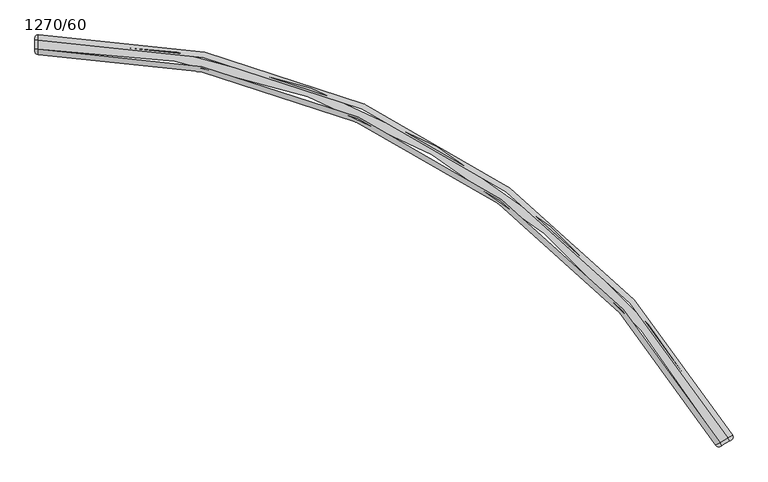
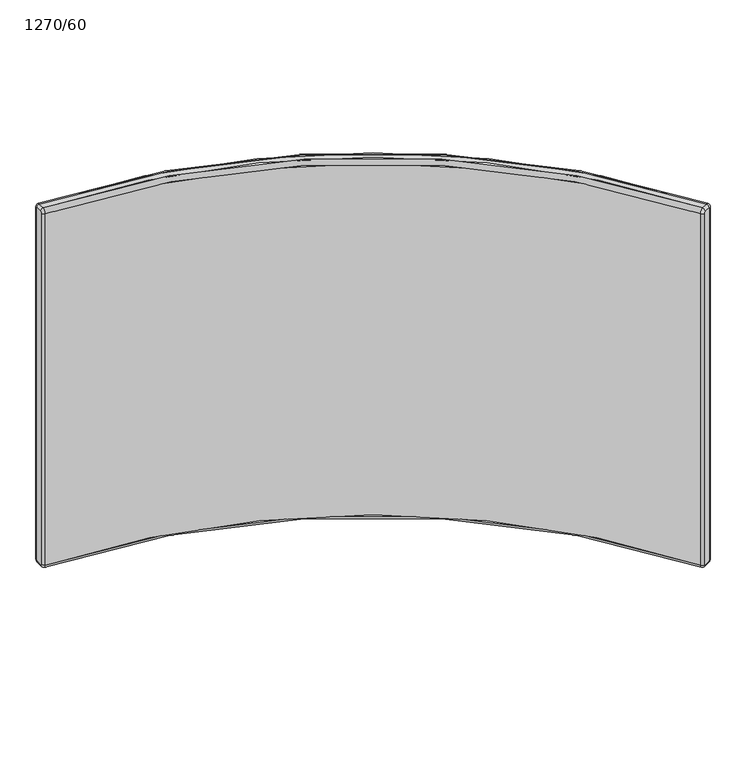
"""IFC4 building model written with IfcOpenShell, lengths in millimetres: furniture geometry, Laguna-Panel-Curve_Inside-ERG : 1270/60."""

import ifcopenshell
import ifcopenshell.guid

model = None  # the IFC model being written
_history = None  # IfcOwnerHistory: only IFC2X3 demands one
_inside = {}  # id of a spatial element -> (the spatial element, [elements in it])
_under = {}  # id of a project, library or spatial element -> (it, [spatial elements below it])
_declared = {}  # id of a project -> (the project, [libraries it declares])
_typed = {}  # id of a type object -> (the type object, [elements of that type])
_made_of = {}  # id of a material, layer set ... -> (it, [elements and type objects made of it])


def new_model(schema):
    """Start an empty IFC model of exactly this schema.

    Asked for "IFC4X3", IfcOpenShell would pick the latest addendum, in which some entities
    have other attributes; the version numbers below select the first issue.
    IFC2X3 requires an IfcOwnerHistory on every rooted entity: one is made here for all.
    """
    global model, _history
    if schema == "IFC4X3":
        model = ifcopenshell.file(schema_version=(4, 3, 0, 0))
    else:
        model = ifcopenshell.file(schema=schema)
    _inside.clear()
    _under.clear()
    _declared.clear()
    _typed.clear()
    _made_of.clear()
    _history = None
    if model.schema == "IFC2X3":
        org = make("IfcOrganization", Name="unknown")
        user = make(
            "IfcPersonAndOrganization",
            ThePerson=make("IfcPerson", FamilyName="unknown"),
            TheOrganization=org,
        )
        app = make(
            "IfcApplication",
            ApplicationDeveloper=org,
            Version="unknown",
            ApplicationFullName="unknown",
            ApplicationIdentifier="unknown",
        )
        _history = make(
            "IfcOwnerHistory",
            OwningUser=user,
            OwningApplication=app,
            ChangeAction="ADDED",
            CreationDate=0,
        )
    return model


def make(cls, **values):
    """One entity of the class cls with the attributes given. An attribute that is None is left unset."""
    return model.create_entity(
        cls, **{name: value for name, value in values.items() if value is not None}
    )


def rooted(cls, **values):
    """An entity with a GlobalId (a new one), such as an element, a storey or a relation."""
    return make(cls, GlobalId=ifcopenshell.guid.new(), OwnerHistory=_history, **values)


def si_unit(unit_type, name, prefix=None):
    """IfcSIUnit, for example si_unit("LENGTHUNIT", "METRE", prefix="MILLI")."""
    return make("IfcSIUnit", UnitType=unit_type, Prefix=prefix, Name=name)


def assignment(units):
    """IfcUnitAssignment: the units of a project."""
    return None if units is None else make("IfcUnitAssignment", Units=units)


def point(xyz):
    """IfcCartesianPoint."""
    return None if xyz is None else make("IfcCartesianPoint", Coordinates=xyz)


def direction(xyz):
    """IfcDirection."""
    return None if xyz is None else make("IfcDirection", DirectionRatios=xyz)


def frame(location, z_axis=None, x_axis=None):
    """IfcAxis2Placement3D, a coordinate frame: its origin and axes. An axis left out is left unset."""
    return make(
        "IfcAxis2Placement3D",
        Location=point(location),
        Axis=direction(z_axis),
        RefDirection=direction(x_axis),
    )


def origin():
    """The frame at (0, 0, 0) with its axes left unset."""
    return frame((0.0, 0.0, 0.0))


def place(relative_to, where):
    """IfcLocalPlacement: puts the frame where relative to a parent placement (None: the world)."""
    return make(
        "IfcLocalPlacement", PlacementRelTo=relative_to, RelativePlacement=where
    )


def context(
    kind, dimensions, precision=None, world=None, true_north=None, identifier=None
):
    """IfcGeometricRepresentationContext, for example the 3D "Model" context."""
    return make(
        "IfcGeometricRepresentationContext",
        ContextIdentifier=identifier,
        ContextType=kind,
        CoordinateSpaceDimension=dimensions,
        Precision=precision,
        WorldCoordinateSystem=world,
        TrueNorth=true_north,
    )


def project(units=None, contexts=None):
    """IfcProject with its units and contexts."""
    return rooted(
        "IfcProject",
        Name="project",
        RepresentationContexts=contexts,
        UnitsInContext=assignment(units),
    )


def spatial(cls, under=None, at=None, **own):
    """A site, building, storey or space (cls), placed at a placement, below another one or the project."""
    s = rooted(cls, ObjectPlacement=at, **own)
    if under is not None:
        _under.setdefault(under.id(), (under, []))[1].append(s)
    return s


def polyline(points):
    """IfcPolyline through the points."""
    return make("IfcPolyline", Points=[point(p) for p in points])


def circle_curve(where, radius):
    """IfcCircle in the frame where."""
    return make("IfcCircle", Position=where, Radius=radius)


def ellipse_curve(where, semi_axis1, semi_axis2):
    """IfcEllipse in the frame where."""
    return make(
        "IfcEllipse", Position=where, SemiAxis1=semi_axis1, SemiAxis2=semi_axis2
    )


def trimmed(basis, trim1, trim2, sense, master):
    """IfcTrimmedCurve: the piece of a basis curve between two trims."""
    return make(
        "IfcTrimmedCurve",
        BasisCurve=basis,
        Trim1=trim1,
        Trim2=trim2,
        SenseAgreement=sense,
        MasterRepresentation=master,
    )


def shape(context_of_items, identifier, shape_type, items):
    """IfcShapeRepresentation: the items that make up one representation, for example the "Body"."""
    return make(
        "IfcShapeRepresentation",
        ContextOfItems=context_of_items,
        RepresentationIdentifier=identifier,
        RepresentationType=shape_type,
        Items=items,
    )


def source(mapping_origin, context_of_items, identifier, shape_type, items):
    """IfcRepresentationMap: a shape defined once, which mapped items show again and again."""
    return make(
        "IfcRepresentationMap",
        MappingOrigin=mapping_origin,
        MappedRepresentation=shape(context_of_items, identifier, shape_type, items),
    )


def transform(
    local_origin,
    x_axis=None,
    y_axis=None,
    z_axis=None,
    scale=None,
    scale2=None,
    scale3=None,
    uniform=True,
):
    """IfcCartesianTransformationOperator3D, or its non-uniform kind. x_axis, y_axis, z_axis: its Axis1, 2, 3."""
    if uniform:
        return make(
            "IfcCartesianTransformationOperator3D",
            Axis1=direction(x_axis),
            Axis2=direction(y_axis),
            LocalOrigin=point(local_origin),
            Scale=scale,
            Axis3=direction(z_axis),
        )
    return make(
        "IfcCartesianTransformationOperator3DnonUniform",
        Axis1=direction(x_axis),
        Axis2=direction(y_axis),
        LocalOrigin=point(local_origin),
        Scale=scale,
        Axis3=direction(z_axis),
        Scale2=scale2,
        Scale3=scale3,
    )


def mapped(mapping_source, mapping_target):
    """IfcMappedItem: shows the shape of a source again, moved by a transform."""
    return make(
        "IfcMappedItem", MappingSource=mapping_source, MappingTarget=mapping_target
    )


def made_of(thing, what):
    """Note that an element or type object is made of a material, layer set ...; save() writes the relation."""
    if what is not None:
        _made_of.setdefault(what.id(), (what, []))[1].append(thing)
    return thing


def element(
    cls,
    number,
    at=None,
    inside=None,
    cuts=None,
    type_object=None,
    material=None,
    context=None,
    identifier="Body",
    shape_type=None,
    held_by="IfcProductDefinitionShape",
    body=None,
    shapes=None,
    **own,
):
    """One element of the class cls, such as IfcWall. Its Tag is "e" and its number.

    at: its placement. inside: the storey or other place that contains it. cuts: it is an
    opening in that element (IfcRelVoidsElement). A single representation is given by context,
    identifier, shape_type and body (its items); several are given by shapes. held_by: the class
    of the entity that holds the representations. save() writes the other relations.
    """
    e = rooted(cls, Tag="e%d" % number, ObjectPlacement=at, **own)
    if body is not None:
        shapes = [shape(context, identifier, shape_type, body)]
    if shapes is not None:
        e.Representation = make(held_by, Representations=shapes)
    if inside is not None:
        _inside.setdefault(inside.id(), (inside, []))[1].append(e)
    if cuts is not None:
        rooted(
            "IfcRelVoidsElement", RelatingBuildingElement=cuts, RelatedOpeningElement=e
        )
    if type_object is not None:
        _typed.setdefault(type_object.id(), (type_object, []))[1].append(e)
    return made_of(e, material)


def aggregate(whole, parts):
    """IfcRelAggregates: a whole, such as a stair, and the parts it consists of."""
    return rooted("IfcRelAggregates", RelatingObject=whole, RelatedObjects=parts)


def save(model, path):
    """Write the relations noted so far, then the file.

    IfcRelAggregates (storeys below a building ...), IfcRelContainedInSpatialStructure (elements
    in a storey), IfcRelDefinesByType, IfcRelAssociatesMaterial and IfcRelDeclares: one each for
    every whole, place, type object, material and project.
    """
    for whole, parts in _under.values():
        aggregate(whole, parts)
    for where, things in _inside.values():
        rooted(
            "IfcRelContainedInSpatialStructure",
            RelatedElements=things,
            RelatingStructure=where,
        )
    for kind, things in _typed.values():
        rooted("IfcRelDefinesByType", RelatedObjects=things, RelatingType=kind)
    for what, things in _made_of.values():
        rooted("IfcRelAssociatesMaterial", RelatedObjects=things, RelatingMaterial=what)
    for by, libraries in _declared.values():
        rooted("IfcRelDeclares", RelatingContext=by, RelatedDefinitions=libraries)
    model.write(path)


def plane_surface(at):
    """IfcPlane: the flat surface through the origin of the frame at, square to its z axis."""
    return make("IfcPlane", Position=at)


def cylinder_surface(at, radius):
    """IfcCylindricalSurface: all points at the distance radius from the z axis of the frame at."""
    return make("IfcCylindricalSurface", Position=at, Radius=radius)


def revolved_surface(curve, axis_point, axis_direction):
    """IfcSurfaceOfRevolution: the curve turned about the line through axis_point along axis_direction."""
    return make(
        "IfcSurfaceOfRevolution",
        SweptCurve=make("IfcArbitraryOpenProfileDef", ProfileType="CURVE", Curve=curve),
        AxisPosition=make("IfcAxis1Placement", Location=point(axis_point), Axis=direction(axis_direction)),
    )


def advanced_brep(points, edges, surfaces, faces):
    """IfcAdvancedBrep: a solid bounded by faces that lie on surfaces and meet in shared edges.

    An edge is (start, end): straight between two places in points (the first is 0);
    or (start, end, curve); or (start, end, curve, False) where it runs against its curve.
    A face is (place in surfaces, loops), or (place, loops, False) where it looks against
    its surface's normal. A loop lists edges by number (the first is 1), with a minus sign
    where the edge is run from its end to its start. The first loop is the outer one.
    """
    corners = [point(p) for p in points]
    vertices = [make("IfcVertexPoint", VertexGeometry=c) for c in corners]
    made = []
    for start, end, *more in edges:
        made.append(
            make(
                "IfcEdgeCurve",
                EdgeStart=vertices[start],
                EdgeEnd=vertices[end],
                EdgeGeometry=more[0] if more else make("IfcPolyline", Points=[corners[start], corners[end]]),
                SameSense=more[1] if len(more) > 1 else True,
            )
        )
    hull = []
    for where, loops, *sense in faces:
        bounds = []
        for j, loop in enumerate(loops):
            ring = [make("IfcOrientedEdge", EdgeElement=made[abs(k) - 1], Orientation=k > 0) for k in loop]
            bounds.append(
                make(
                    "IfcFaceOuterBound" if j == 0 else "IfcFaceBound",
                    Bound=make("IfcEdgeLoop", EdgeList=ring),
                    Orientation=True,
                )
            )
        hull.append(make("IfcAdvancedFace", Bounds=bounds, FaceSurface=surfaces[where], SameSense=sense[0] if sense else True))
    return make("IfcAdvancedBrep", Outer=make("IfcClosedShell", CfsFaces=hull))


def furniture_1270_60_1ddb8be8(model_context):
    return source(origin(), model_context, "Body", "AdvancedBrep", [
        advanced_brep(
        [(-3478.5381962, 710.5208734, 1209.04), (-3476.2139349, 719.1951347, 1209.04), (-3485.012753, 714.1151347, 1219.2), (-3481.837753, 708.6158734, 1212.85), (-3500.433635, 705.2118843, 1219.2), (-3497.258635, 699.712623, 1212.85), (-3509.2324531, 700.1318843, 1209.04), (-3500.5581918, 697.807623, 1209.04), (-3509.2324531, 700.1318843, 213.36), (-3500.5581918, 697.807623, 213.36), (-3500.433635, 705.2118843, 203.2), (-3497.258635, 699.712623, 209.55), (-3485.012753, 714.1151347, 203.2), (-3481.837753, 708.6158734, 209.55), (-3476.2139349, 719.1951347, 213.36), (-3478.5381962, 710.5208734, 213.36), (-4826.5553779, 1498.8151303, 1209.04), (-4826.5553779, 1488.6551303, 1219.2), (-4826.5553779, 1498.8151303, 213.36), (-4826.5553779, 1488.6551303, 203.2), (-4826.5553779, 1470.8486296, 203.2), (-4826.5553779, 1460.6886296, 213.36), (-4826.5553779, 1460.6886296, 1209.04), (-4826.5553779, 1470.8486296, 1219.2), (-4832.9053779, 1467.0386296, 1209.04), (-4832.9053779, 1470.8486296, 1212.85), (-4832.9053779, 1488.6551303, 1212.85), (-4832.9053779, 1492.4651303, 1209.04), (-4832.9053779, 1492.4651303, 213.36), (-4832.9053779, 1488.6551303, 209.55), (-4832.9053779, 1470.8486296, 209.55), (-4832.9053779, 1467.0386296, 213.36)],
        [
            (0, 1, circle_curve(frame((-3481.7131962, 716.0201347, 1209.04), z_axis=(0.0, 0.0, 1.0000000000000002), x_axis=(-0.866025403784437, -0.500000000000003, 0.0)), 6.35)),
            (1, 2, circle_curve(frame((-3485.012753, 714.1151347, 1209.04), z_axis=(0.5000000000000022, -0.8660254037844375, 0.0), x_axis=(0.8660254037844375, 0.5000000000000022, 0.0)), 10.16)),
            (2, 3, circle_curve(frame((-3485.012753, 714.1151347, 1212.85), z_axis=(0.8660254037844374, 0.5000000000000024, 0.0), x_axis=(0.0, 0.0, -1.0000000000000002)), 6.35)),
            (3, 0, circle_curve(frame((-3481.837753, 708.6158734, 1209.04), z_axis=(-0.5000000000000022, 0.8660254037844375, 0.0), x_axis=(0.8660254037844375, 0.5000000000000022, 0.0)), 3.81)),
            (2, 4),
            (4, 5, circle_curve(frame((-3500.433635, 705.2118843, 1212.85), z_axis=(0.8660254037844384, 0.5000000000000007, 0.0), x_axis=(0.0, 0.0, -1.0)), 6.35)),
            (5, 3),
            (4, 6, circle_curve(frame((-3500.433635, 705.2118843, 1209.04), z_axis=(0.5000000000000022, -0.8660254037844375, 0.0), x_axis=(0.0, 0.0, 1.0)), 10.16)),
            (6, 7, circle_curve(frame((-3503.7331918, 703.3068843, 1209.04), z_axis=(0.0, 0.0, 1.0), x_axis=(0.8660254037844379, 0.5000000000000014, 0.0)), 6.35)),
            (7, 5, circle_curve(frame((-3497.258635, 699.712623, 1209.04), z_axis=(-0.5000000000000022, 0.8660254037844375, 0.0), x_axis=(0.0, 0.0, 1.0)), 3.81)),
            (6, 8),
            (8, 9, circle_curve(frame((-3503.7331918, 703.3068843, 213.36), z_axis=(0.0, 0.0, 1.0), x_axis=(0.8660254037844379, 0.5000000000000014, 0.0)), 6.35)),
            (9, 7),
            (8, 10, circle_curve(frame((-3500.433635, 705.2118843, 213.36), z_axis=(0.5000000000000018, -0.8660254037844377, 0.0), x_axis=(-0.8660254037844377, -0.5000000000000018, 0.0)), 10.16)),
            (10, 11, circle_curve(frame((-3500.433635, 705.2118843, 209.55), z_axis=(-0.866025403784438, -0.5000000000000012, 0.0), x_axis=(0.0, 0.0, 1.0)), 6.35)),
            (11, 9, circle_curve(frame((-3497.258635, 699.712623, 213.36), z_axis=(-0.5000000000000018, 0.8660254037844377, 0.0), x_axis=(-0.8660254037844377, -0.5000000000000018, 0.0)), 3.81)),
            (10, 12),
            (12, 13, circle_curve(frame((-3485.012753, 714.1151347, 209.55), z_axis=(-0.866025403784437, -0.500000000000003, 0.0), x_axis=(0.0, 0.0, 1.0)), 6.35)),
            (13, 11),
            (12, 14, circle_curve(frame((-3485.012753, 714.1151347, 213.36), z_axis=(0.5000000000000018, -0.8660254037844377, 0.0), x_axis=(0.0, 0.0, -1.0)), 10.16)),
            (14, 15, circle_curve(frame((-3481.7131962, 716.0201347, 213.36), z_axis=(0.0, 0.0, -1.0), x_axis=(-0.8660254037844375, -0.5000000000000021, 0.0)), 6.35)),
            (15, 13, circle_curve(frame((-3481.837753, 708.6158734, 213.36), z_axis=(-0.5000000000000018, 0.8660254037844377, 0.0), x_axis=(0.0, 0.0, -1.0)), 3.81)),
            (0, 15),
            (14, 1),
            (1, 16, circle_curve(frame((-4826.5553779, -60.4248609, 1209.04), z_axis=(0.0, 0.0, 1.0), x_axis=(0.0, 1.0, 0.0)), 1559.2399912)),
            (16, 17, circle_curve(frame((-4826.5553779, 1488.6551303, 1209.04), z_axis=(1.0, 0.0, 0.0), x_axis=(0.0, 1.0, 0.0)), 10.16)),
            (17, 2, circle_curve(frame((-4826.5553779, -60.4248609, 1219.2), z_axis=(0.0, 0.0, -1.0), x_axis=(0.0, 1.0, 0.0)), 1549.0799912)),
            (14, 18, circle_curve(frame((-4826.5553779, -60.4248609, 213.36), z_axis=(0.0, 0.0, 1.0), x_axis=(0.0, 1.0, 0.0)), 1559.2399912)),
            (18, 16),
            (12, 19, circle_curve(frame((-4826.5553779, -60.4248609, 203.2), z_axis=(0.0, 0.0, 1.0), x_axis=(0.0, 1.0, 0.0)), 1549.0799912)),
            (19, 18, circle_curve(frame((-4826.5553779, 1488.6551303, 213.36), z_axis=(1.0, 0.0, 0.0), x_axis=(0.0, 1.0, 0.0)), 10.16)),
            (10, 20, circle_curve(frame((-4826.5553779, -60.4248609, 203.2), z_axis=(0.0, 0.0, 1.0), x_axis=(0.0, 1.0, 0.0)), 1531.2734905)),
            (20, 19),
            (8, 21, circle_curve(frame((-4826.5553779, -60.4248609, 213.36), z_axis=(0.0, 0.0, 1.0), x_axis=(0.0, 1.0, 0.0)), 1521.1134905)),
            (21, 20, circle_curve(frame((-4826.5553779, 1470.8486296, 213.36), z_axis=(1.0, 0.0, 0.0), x_axis=(0.0, 1.0, 0.0)), 10.16)),
            (6, 22, circle_curve(frame((-4826.5553779, -60.4248609, 1209.04), z_axis=(0.0, 0.0, 1.0), x_axis=(0.0, 1.0, 0.0)), 1521.1134905)),
            (22, 21),
            (4, 23, circle_curve(frame((-4826.5553779, -60.4248609, 1219.2), z_axis=(0.0, 0.0, 1.0), x_axis=(0.0, 1.0, 0.0)), 1531.2734905)),
            (23, 22, circle_curve(frame((-4826.5553779, 1470.8486296, 1209.04), z_axis=(1.0, 0.0, 0.0), x_axis=(0.0, 1.0, 0.0)), 10.16)),
            (17, 23),
            (24, 22, circle_curve(frame((-4826.5553779, 1467.0386296, 1209.04), z_axis=(0.0, 0.0, 1.0), x_axis=(0.0, 1.0, 0.0)), 6.35)),
            (23, 25, circle_curve(frame((-4826.5553779, 1470.8486296, 1212.85), z_axis=(0.0, -1.0, 0.0), x_axis=(0.0, 0.0, -1.0)), 6.35)),
            (25, 24, circle_curve(frame((-4832.9053779, 1470.8486296, 1209.04), z_axis=(1.0, 0.0, 0.0), x_axis=(0.0, -1.0, 0.0)), 3.81)),
            (17, 26, circle_curve(frame((-4826.5553779, 1488.6551303, 1212.85), z_axis=(0.0, -1.0, 0.0), x_axis=(0.0, 0.0, -1.0)), 6.35)),
            (26, 25),
            (16, 27, circle_curve(frame((-4826.5553779, 1492.4651303, 1209.04), z_axis=(0.0, 0.0, 1.0), x_axis=(0.0, -1.0, 0.0)), 6.35)),
            (27, 26, circle_curve(frame((-4832.9053779, 1488.6551303, 1209.04), z_axis=(1.0, 0.0, 0.0), x_axis=(0.0, 0.0, 1.0)), 3.81)),
            (18, 28, circle_curve(frame((-4826.5553779, 1492.4651303, 213.36), z_axis=(0.0, 0.0, 1.0), x_axis=(0.0, -1.0, 0.0)), 6.35)),
            (28, 27),
            (19, 29, circle_curve(frame((-4826.5553779, 1488.6551303, 209.55), z_axis=(0.0, 1.0, 0.0), x_axis=(0.0, 0.0, 1.0)), 6.35)),
            (29, 28, circle_curve(frame((-4832.9053779, 1488.6551303, 213.36), z_axis=(1.0, 0.0, 0.0), x_axis=(0.0, 1.0, 0.0)), 3.81)),
            (20, 30, circle_curve(frame((-4826.5553779, 1470.8486296, 209.55), z_axis=(0.0, 1.0, 0.0), x_axis=(0.0, 0.0, 1.0)), 6.35)),
            (30, 29),
            (21, 31, circle_curve(frame((-4826.5553779, 1467.0386296, 213.36), z_axis=(0.0, 0.0, -1.0), x_axis=(0.0, 1.0, 0.0)), 6.35)),
            (31, 30, circle_curve(frame((-4832.9053779, 1470.8486296, 213.36), z_axis=(1.0, 0.0, 0.0), x_axis=(0.0, 0.0, -1.0)), 3.81)),
            (24, 31),
        ],
        [
            revolved_surface(trimmed(ellipse_curve(frame((-3481.7131962, 716.0201347, 1209.04), z_axis=(0.0, 0.0, -1.0000000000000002), x_axis=(-0.866025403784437, -0.500000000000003, 0.0)), 6.35, 6.35), [point((-3476.2139349, 719.1951347, 1209.04))], [point((-3478.5381962, 710.5208734, 1209.04))], True, "CARTESIAN"), (-3485.012753, 714.1151347, 1209.04), (0.5000000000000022, -0.8660254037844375, 0.0)),
            cylinder_surface(frame((-3485.012753, 714.1151347, 1212.85), z_axis=(0.8660254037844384, 0.5000000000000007, 0.0), x_axis=(0.0, 0.0, -1.0)), 6.35),
            revolved_surface(trimmed(ellipse_curve(frame((-3500.433635, 705.2118843, 1212.85), z_axis=(0.8660254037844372, 0.5000000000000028, 0.0), x_axis=(0.0, 0.0, -1.0)), 6.35, 6.35), [point((-3500.433635, 705.2118843, 1219.2))], [point((-3497.258635, 699.712623, 1212.85))], True, "CARTESIAN"), (-3500.433635, 705.2118843, 1209.04), (0.5000000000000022, -0.8660254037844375, 0.0)),
            cylinder_surface(frame((-3503.7331918, 703.3068843, 1209.04), z_axis=(0.0, 0.0, 1.0), x_axis=(0.8660254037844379, 0.5000000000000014, 0.0)), 6.35),
            revolved_surface(trimmed(ellipse_curve(frame((-3503.7331918, 703.3068843, 213.36), z_axis=(0.0, 0.0, 1.0), x_axis=(0.8660254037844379, 0.5000000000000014, 0.0)), 6.35, 6.35), [point((-3509.2324531, 700.1318843, 213.36))], [point((-3500.5581918, 697.807623, 213.36))], True, "CARTESIAN"), (-3500.433635, 705.2118843, 213.36), (0.5000000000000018, -0.8660254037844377, 0.0)),
            cylinder_surface(frame((-3500.433635, 705.2118843, 209.55), z_axis=(-0.866025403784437, -0.500000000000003, 0.0), x_axis=(0.0, 0.0, 1.0)), 6.35),
            revolved_surface(trimmed(ellipse_curve(frame((-3485.012753, 714.1151347, 209.55), z_axis=(-0.866025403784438, -0.5000000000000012, 0.0), x_axis=(0.0, 0.0, 1.0)), 6.35, 6.35), [point((-3485.012753, 714.1151347, 203.2))], [point((-3481.837753, 708.6158734, 209.55))], True, "CARTESIAN"), (-3485.012753, 714.1151347, 213.36), (0.5000000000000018, -0.8660254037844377, 0.0)),
            cylinder_surface(frame((-3481.7131962, 716.0201347, 213.36), z_axis=(0.0, 0.0, -1.0), x_axis=(-0.8660254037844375, -0.5000000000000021, 0.0)), 6.35),
            plane_surface(frame((-3500.5581918, 697.807623, 213.36), z_axis=(0.5000000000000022, -0.8660254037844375, 0.0), x_axis=(0.0, 0.0, -1.0))),
            revolved_surface(trimmed(ellipse_curve(frame((-4826.5553779, 1488.6551303, 1209.04), z_axis=(-1.0, 0.0, 0.0), x_axis=(0.0, 1.0, 0.0)), 10.16, 10.16), [point((-4826.5553779, 1488.6551303, 1219.2))], [point((-4826.5553779, 1498.8151303, 1209.04))], True, "CARTESIAN"), (-4826.5553779, -60.4248609, 0.0), (0.0, 0.0, -1.0)),
            cylinder_surface(frame((-4826.5553779, -60.4248609, 0.0), z_axis=(0.0, 0.0, -1.0), x_axis=(0.0, 1.0, 0.0)), 1559.2399912),
            revolved_surface(trimmed(ellipse_curve(frame((-4826.5553779, 1488.6551303, 213.36), z_axis=(-1.0, 0.0, 0.0), x_axis=(0.0, 1.0, 0.0)), 10.16, 10.16), [point((-4826.5553779, 1498.8151303, 213.36))], [point((-4826.5553779, 1488.6551303, 203.2))], True, "CARTESIAN"), (-4826.5553779, -60.4248609, 0.0), (0.0, 0.0, -1.0)),
            plane_surface(frame((-4826.5553779, -60.4248609, 203.2), z_axis=(0.0, 0.0, -1.0), x_axis=(0.0, 1.0, 0.0))),
            revolved_surface(trimmed(ellipse_curve(frame((-4826.5553779, 1470.8486296, 213.36), z_axis=(-1.0, 0.0, 0.0), x_axis=(0.0, 1.0, 0.0)), 10.16, 10.16), [point((-4826.5553779, 1470.8486296, 203.2))], [point((-4826.5553779, 1460.6886296, 213.36))], True, "CARTESIAN"), (-4826.5553779, -60.4248609, 0.0), (0.0, 0.0, -1.0)),
            revolved_surface(polyline([(-4826.5553779, 1460.6886295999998, 213.36), (-4826.5553779, 1460.6886295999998, 1209.04)]), (-4826.5553779, -60.4248609, 0.0), (0.0, 0.0, -1.0)),
            revolved_surface(trimmed(ellipse_curve(frame((-4826.5553779, 1470.8486296, 1209.04), z_axis=(-1.0, 0.0, 0.0), x_axis=(0.0, 1.0, 0.0)), 10.16, 10.16), [point((-4826.5553779, 1460.6886296, 1209.04))], [point((-4826.5553779, 1470.8486296, 1219.2))], True, "CARTESIAN"), (-4826.5553779, -60.4248609, 0.0), (0.0, 0.0, -1.0)),
            plane_surface(frame((-4826.5553779, -60.4248609, 1219.2), z_axis=(0.0, 0.0, 1.0), x_axis=(0.0, 1.0, 0.0))),
            revolved_surface(trimmed(ellipse_curve(frame((-4826.5553779, 1467.0386296, 1209.04), z_axis=(0.0, 0.0, -1.0), x_axis=(0.0, 1.0, 0.0)), 6.35, 6.35), [point((-4826.5553779, 1460.6886296, 1209.04))], [point((-4832.9053779, 1467.0386296, 1209.04))], True, "CARTESIAN"), (-4826.5553779, 1470.8486296, 1209.04), (-1.0, 0.0, 0.0)),
            cylinder_surface(frame((-4826.5553779, 1470.8486296, 1212.85), z_axis=(0.0, -1.0, 0.0), x_axis=(0.0, 0.0, -1.0)), 6.35),
            revolved_surface(trimmed(ellipse_curve(frame((-4826.5553779, 1488.6551303, 1212.85), z_axis=(0.0, -1.0, 0.0), x_axis=(0.0, 0.0, -1.0)), 6.35, 6.35), [point((-4826.5553779, 1488.6551303, 1219.2))], [point((-4832.9053779, 1488.6551303, 1212.85))], True, "CARTESIAN"), (-4826.5553779, 1488.6551303, 1209.04), (-1.0, 0.0, 0.0)),
            cylinder_surface(frame((-4826.5553779, 1492.4651303, 1209.04), z_axis=(0.0, 0.0, 1.0), x_axis=(0.0, -1.0, 0.0)), 6.35),
            revolved_surface(trimmed(ellipse_curve(frame((-4826.5553779, 1492.4651303, 213.36), z_axis=(0.0, 0.0, 1.0), x_axis=(0.0, -1.0, 0.0)), 6.35, 6.35), [point((-4826.5553779, 1498.8151303, 213.36))], [point((-4832.9053779, 1492.4651303, 213.36))], True, "CARTESIAN"), (-4826.5553779, 1488.6551303, 213.36), (-1.0, 0.0, 0.0)),
            cylinder_surface(frame((-4826.5553779, 1488.6551303, 209.55), z_axis=(0.0, 1.0, 0.0), x_axis=(0.0, 0.0, 1.0)), 6.35),
            revolved_surface(trimmed(ellipse_curve(frame((-4826.5553779, 1470.8486296, 209.55), z_axis=(0.0, 1.0, 0.0), x_axis=(0.0, 0.0, 1.0)), 6.35, 6.35), [point((-4826.5553779, 1470.8486296, 203.2))], [point((-4832.9053779, 1470.8486296, 209.55))], True, "CARTESIAN"), (-4826.5553779, 1470.8486296, 213.36), (-1.0, 0.0, 0.0)),
            cylinder_surface(frame((-4826.5553779, 1467.0386296, 213.36), z_axis=(0.0, 0.0, -1.0), x_axis=(0.0, 1.0, 0.0)), 6.35),
            plane_surface(frame((-4832.9053779, 1492.4651303, 213.36), z_axis=(-1.0, 0.0, 0.0), x_axis=(0.0, 0.0, -1.0))),
        ],
        [
            (0, [[1, 2, 3, 4]]),
            (1, [[-3, 5, 6, 7]]),
            (2, [[-6, 8, 9, 10]]),
            (3, [[-9, 11, 12, 13]]),
            (4, [[-12, 14, 15, 16]]),
            (5, [[-15, 17, 18, 19]]),
            (6, [[-18, 20, 21, 22]]),
            (7, [[-1, 23, -21, 24]]),
            (8, [[-4, -7, -10, -13, -16, -19, -22, -23]]),
            (9, [[25, 26, 27, -2]]),
            (10, [[-25, -24, 28, 29]]),
            (11, [[-28, -20, 30, 31]]),
            (12, [[-30, -17, 32, 33]]),
            (13, [[-32, -14, 34, 35]]),
            (14, [[-34, -11, 36, 37]]),
            (15, [[-36, -8, 38, 39]]),
            (16, [[-27, 40, -38, -5]]),
            (17, [[41, -39, 42, 43]]),
            (18, [[-42, -40, 44, 45]]),
            (19, [[-44, -26, 46, 47]]),
            (20, [[-46, -29, 48, 49]]),
            (21, [[-48, -31, 50, 51]]),
            (22, [[-50, -33, 52, 53]]),
            (23, [[-52, -35, 54, 55]]),
            (24, [[-41, 56, -54, -37]]),
            (25, [[-43, -45, -47, -49, -51, -53, -55, -56]]),
        ],
    ),
    ])


if __name__ == "__main__":
    model = new_model("IFC4")
    model_context = context("Model", 3, world=origin())
    ifc_project = project(units=[si_unit("LENGTHUNIT", "METRE", prefix="MILLI")], contexts=[model_context])
    site = spatial("IfcSite", under=ifc_project)
    building = spatial("IfcBuilding", under=site)
    placement = place(None, origin())
    furniture_1270_60_shape = furniture_1270_60_1ddb8be8(model_context)
    element("IfcFurniture", 1, ObjectType="Laguna-Panel-Curve_Inside-ERG : 1270/60", at=placement, inside=building, context=model_context, shape_type="MappedRepresentation", body=[
        mapped(furniture_1270_60_shape, transform((0.0, 0.0, 0.0), x_axis=(1.0, 0.0, 0.0), y_axis=(0.0, 1.0, 0.0), z_axis=(0.0, 0.0, 1.0))),
    ])
    save(model, "model.ifc")
